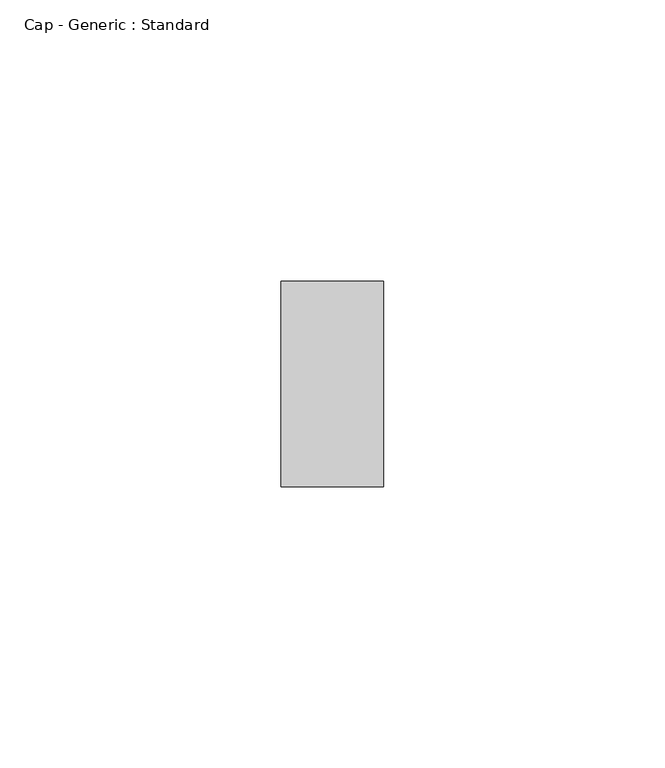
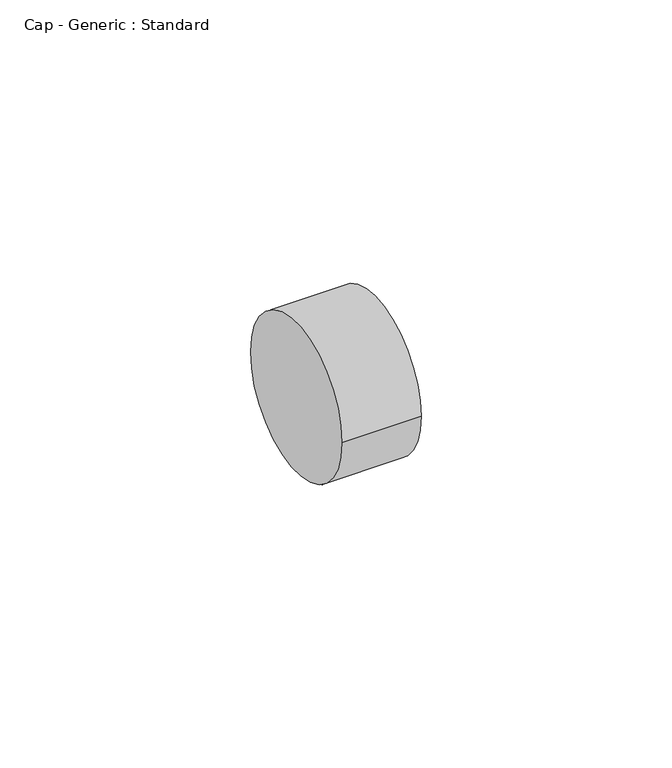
"""IFC4 building model written with IfcOpenShell, lengths in millimetres: pipe fitting geometry, Cap - Generic : Standard."""

from ifc_helpers import new_model, si_unit, point, frame, origin, origin_2d, place, context, project, spatial, circle_curve, trimmed, segment, composite_curve, outline, extrude, source, transform, mapped, element, save


def cap_generic_standard_8f6495e9(model_context):
    return source(origin(), model_context, "Body", "SweptSolid", [
        extrude(outline(composite_curve([segment(trimmed(circle_curve(origin_2d(), 18.25625), [point((-18.25625, 0.0))], [point((18.25625, 0.0))], False, "CARTESIAN"), True, "CONTINUOUS"), segment(trimmed(circle_curve(origin_2d(), 18.25625), [point((18.25625, 0.0))], [point((-18.25625, 0.0))], False, "CARTESIAN"), True, "CONTINUOUS")], self_intersect=False)), frame((0.0, 0.0, 0.0), z_axis=(1.0, 0.0, 0.0), x_axis=(0.0, 1.0, 0.0)), (0.0, 0.0, 1.0), 18.25625),
    ])


if __name__ == "__main__":
    model = new_model("IFC4")
    model_context = context("Model", 3, world=origin())
    ifc_project = project(units=[si_unit("LENGTHUNIT", "METRE", prefix="MILLI")], contexts=[model_context])
    site = spatial("IfcSite", under=ifc_project)
    building = spatial("IfcBuilding", under=site)
    placement = place(None, origin())
    cap_generic_standard_shape = cap_generic_standard_8f6495e9(model_context)
    element("IfcPipeFitting", 1, ObjectType="Cap - Generic : Standard", at=placement, inside=building, context=model_context, shape_type="MappedRepresentation", body=[
        mapped(cap_generic_standard_shape, transform((0.0, 0.0, 0.0), x_axis=(1.0, 0.0, 0.0), y_axis=(0.0, 1.0, 0.0), z_axis=(0.0, 0.0, 1.0))),
    ])
    save(model, "model.ifc")
